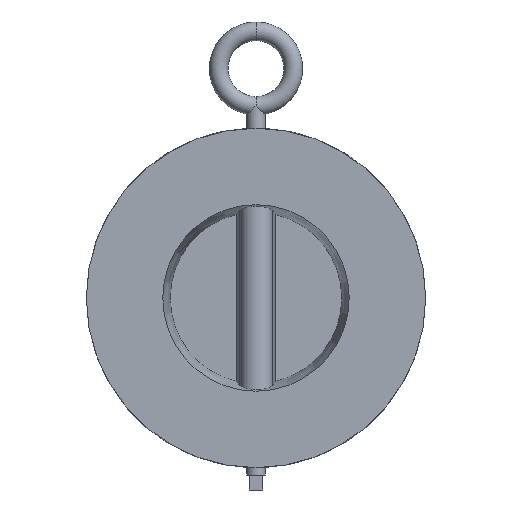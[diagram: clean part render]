
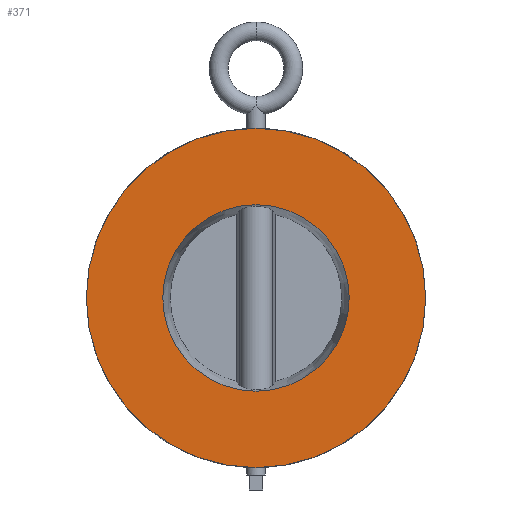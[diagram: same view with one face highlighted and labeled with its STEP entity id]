
A CAD part, front view. The second image highlights one B-rep face of the part: STEP entity #371.
In plain terms, the highlighted planar face has unit normal (0, -1, 0).
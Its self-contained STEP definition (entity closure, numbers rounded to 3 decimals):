
#367 = EDGE_CURVE ( 'NONE', #1358, #1348, #2958, .T. ) ;
#370 = ORIENTED_EDGE ( 'NONE', *, *, #367, .F. ) ;
#371 = ADVANCED_FACE ( 'NONE', ( #2969, #3065 ), #2990, .F. ) ;
#372 = ORIENTED_EDGE ( 'NONE', *, *, #1354, .F. ) ;
#374 = ORIENTED_EDGE ( 'NONE', *, *, #1666, .T. ) ;
#375 = EDGE_LOOP ( 'NONE', ( #370, #372 ) ) ;
#378 = ORIENTED_EDGE ( 'NONE', *, *, #1704, .T. ) ;
#380 = EDGE_LOOP ( 'NONE', ( #374, #378 ) ) ;
#1348 = VERTEX_POINT ( 'NONE', #2017 ) ;
#1354 = EDGE_CURVE ( 'NONE', #1348, #1358, #2080, .T. ) ;
#1358 = VERTEX_POINT ( 'NONE', #2064 ) ;
#1598 = VERTEX_POINT ( 'NONE', #3371 ) ;
#1661 = VERTEX_POINT ( 'NONE', #3862 ) ;
#1666 = EDGE_CURVE ( 'NONE', #1598, #1661, #3818, .T. ) ;
#1704 = EDGE_CURVE ( 'NONE', #1661, #1598, #4109, .T. ) ;
#2017 = CARTESIAN_POINT ( 'NONE',  ( 0., 0., 25. ) ) ;
#2064 = CARTESIAN_POINT ( 'NONE',  ( 0., 0., -25. ) ) ;
#2074 = DIRECTION ( 'NONE',  ( 0., 0., -1. ) ) ;
#2075 = DIRECTION ( 'NONE',  ( 0., -1., 0. ) ) ;
#2077 = CARTESIAN_POINT ( 'NONE',  ( 0., 0., 0. ) ) ;
#2078 = AXIS2_PLACEMENT_3D ( 'NONE', #2077, #2075, #2074 ) ;
#2080 = CIRCLE ( 'NONE', #2078, 25. ) ;
#2955 = AXIS2_PLACEMENT_3D ( 'NONE', #3058, #3022, #3020 ) ;
#2958 = CIRCLE ( 'NONE', #2955, 25. ) ;
#2969 = FACE_OUTER_BOUND ( 'NONE', #380, .T. ) ;
#2990 = PLANE ( 'NONE',  #3064 ) ;
#3009 = CARTESIAN_POINT ( 'NONE',  ( -25., 0., 0. ) ) ;
#3013 = DIRECTION ( 'NONE',  ( 0., 1., 0. ) ) ;
#3020 = DIRECTION ( 'NONE',  ( 0., 0., -1. ) ) ;
#3022 = DIRECTION ( 'NONE',  ( 0., -1., 0. ) ) ;
#3058 = CARTESIAN_POINT ( 'NONE',  ( 0., 0., 0. ) ) ;
#3064 = AXIS2_PLACEMENT_3D ( 'NONE', #3009, #3013, #3131 ) ;
#3065 = FACE_BOUND ( 'NONE', #375, .T. ) ;
#3131 = DIRECTION ( 'NONE',  ( 0., 0., 1. ) ) ;
#3371 = CARTESIAN_POINT ( 'NONE',  ( 0., 0., -45.5 ) ) ;
#3818 = CIRCLE ( 'NONE', #3888, 45.5 ) ;
#3862 = CARTESIAN_POINT ( 'NONE',  ( 0., 0., 45.5 ) ) ;
#3884 = DIRECTION ( 'NONE',  ( 0., 0., -1. ) ) ;
#3885 = DIRECTION ( 'NONE',  ( 0., -1., 0. ) ) ;
#3886 = CARTESIAN_POINT ( 'NONE',  ( 0., 0., 0. ) ) ;
#3888 = AXIS2_PLACEMENT_3D ( 'NONE', #3886, #3885, #3884 ) ;
#4104 = DIRECTION ( 'NONE',  ( 0., 0., -1. ) ) ;
#4105 = DIRECTION ( 'NONE',  ( 0., -1., 0. ) ) ;
#4107 = CARTESIAN_POINT ( 'NONE',  ( 0., 0., 0. ) ) ;
#4109 = CIRCLE ( 'NONE', #4149, 45.5 ) ;
#4149 = AXIS2_PLACEMENT_3D ( 'NONE', #4107, #4105, #4104 ) ;
